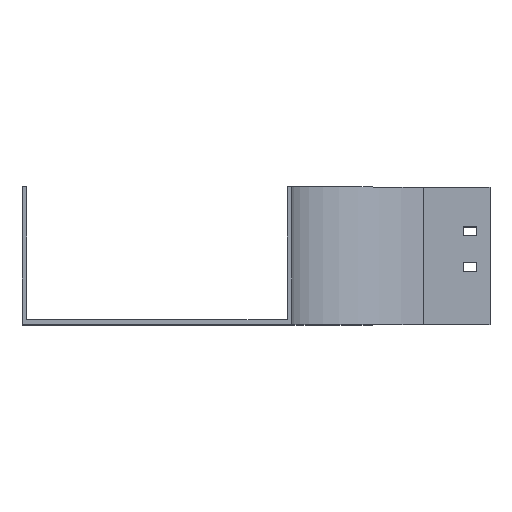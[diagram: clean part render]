
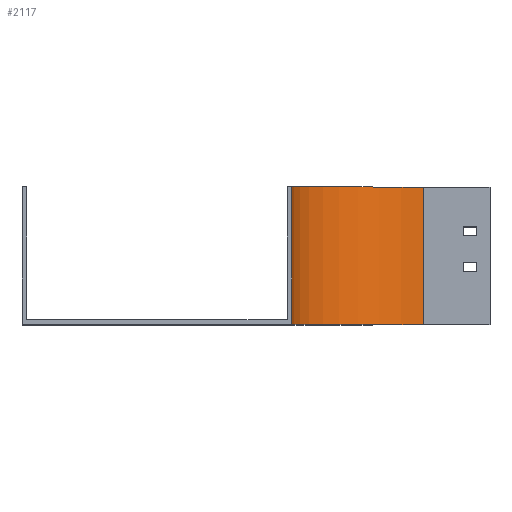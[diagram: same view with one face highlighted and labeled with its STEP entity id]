
A CAD part, top view. The second image highlights one B-rep face of the part: STEP entity #2117.
In plain terms, the highlighted cylindrical face has radius 100 mm (diameter 200 mm), a partial arc.
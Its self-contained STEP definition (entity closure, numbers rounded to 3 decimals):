
#11 = DIRECTION ( 'NONE',  ( 0., -1., 0. ) ) ;
#43 = CARTESIAN_POINT ( 'NONE',  ( 0., 104., 0. ) ) ;
#265 = CARTESIAN_POINT ( 'NONE',  ( 0., 104., -100. ) ) ;
#358 = CARTESIAN_POINT ( 'NONE',  ( -100., 0., 0. ) ) ;
#436 = DIRECTION ( 'NONE',  ( 0., 0., -1. ) ) ;
#467 = VECTOR ( 'NONE', #2007, 1000. ) ;
#479 = CYLINDRICAL_SURFACE ( 'NONE', #1359, 100. ) ;
#517 = ORIENTED_EDGE ( 'NONE', *, *, #1705, .F. ) ;
#563 = AXIS2_PLACEMENT_3D ( 'NONE', #2734, #1680, #634 ) ;
#634 = DIRECTION ( 'NONE',  ( 0., 0., -1. ) ) ;
#712 = CARTESIAN_POINT ( 'NONE',  ( 0., 104., 0. ) ) ;
#767 = CARTESIAN_POINT ( 'NONE',  ( -100., 104., 0. ) ) ;
#864 = DIRECTION ( 'NONE',  ( 0., 0., -1. ) ) ;
#890 = CARTESIAN_POINT ( 'NONE',  ( -100., 104., 0. ) ) ;
#1090 = ORIENTED_EDGE ( 'NONE', *, *, #2409, .T. ) ;
#1171 = CARTESIAN_POINT ( 'NONE',  ( 0., 0., -100. ) ) ;
#1322 = CIRCLE ( 'NONE', #563, 100. ) ;
#1344 = EDGE_CURVE ( 'NONE', #2014, #1449, #1322, .T. ) ;
#1357 = CIRCLE ( 'NONE', #1572, 100. ) ;
#1359 = AXIS2_PLACEMENT_3D ( 'NONE', #43, #11, #436 ) ;
#1367 = ORIENTED_EDGE ( 'NONE', *, *, #1344, .T. ) ;
#1408 = LINE ( 'NONE', #767, #467 ) ;
#1449 = VERTEX_POINT ( 'NONE', #1171 ) ;
#1572 = AXIS2_PLACEMENT_3D ( 'NONE', #712, #2585, #864 ) ;
#1680 = DIRECTION ( 'NONE',  ( 0., -1., 0. ) ) ;
#1699 = VERTEX_POINT ( 'NONE', #265 ) ;
#1705 = EDGE_CURVE ( 'NONE', #1699, #1449, #1736, .T. ) ;
#1736 = LINE ( 'NONE', #2386, #2158 ) ;
#1809 = ORIENTED_EDGE ( 'NONE', *, *, #1869, .F. ) ;
#1869 = EDGE_CURVE ( 'NONE', #2687, #1699, #1357, .T. ) ;
#2007 = DIRECTION ( 'NONE',  ( 0., -1., 0. ) ) ;
#2014 = VERTEX_POINT ( 'NONE', #358 ) ;
#2117 = ADVANCED_FACE ( 'NONE', ( #2319 ), #479, .F. ) ;
#2158 = VECTOR ( 'NONE', #2587, 1000. ) ;
#2319 = FACE_OUTER_BOUND ( 'NONE', #2762, .T. ) ;
#2386 = CARTESIAN_POINT ( 'NONE',  ( 0., 104., -100. ) ) ;
#2409 = EDGE_CURVE ( 'NONE', #2687, #2014, #1408, .T. ) ;
#2585 = DIRECTION ( 'NONE',  ( 0., -1., 0. ) ) ;
#2587 = DIRECTION ( 'NONE',  ( 0., -1., 0. ) ) ;
#2687 = VERTEX_POINT ( 'NONE', #890 ) ;
#2734 = CARTESIAN_POINT ( 'NONE',  ( 0., 0., 0. ) ) ;
#2762 = EDGE_LOOP ( 'NONE', ( #1367, #517, #1809, #1090 ) ) ;
